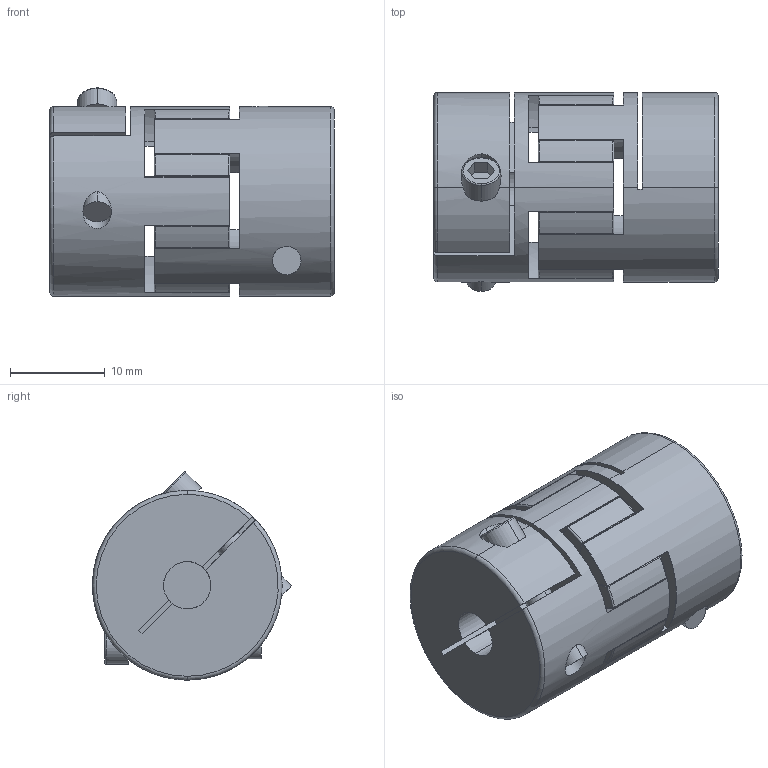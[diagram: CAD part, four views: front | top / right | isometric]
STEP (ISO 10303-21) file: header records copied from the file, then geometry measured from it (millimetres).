
FILE_DESCRIPTION (( 'STEP AP203' ), '1' );
FILE_NAME ('JM20CRD-5-5.STEP', '2021-01-28T00:54:04', ( '微软用户' ), ( '微软中国' ), 'SwSTEP 2.0', 'SolidWorks 2016', '' );
FILE_SCHEMA (( 'CONFIG_CONTROL_DESIGN' ));
Length unit declared in the file: millimetre
Products named in the file (1): JM20CRD-5-5
Bounding box: 30 x 21 x 21.96 mm (x, y, z)
Volume: 7795.2 mm3; surface area: 5054.9 mm2
Topology: 1 solids, 1 shells, 407 faces, 996 edges, 560 vertices
Faces by surface type: torus 151, cylinder 128, sphere 60, plane 52, bspline 16
Entity records: 13048 total; most frequent: CARTESIAN_POINT 3541, DIRECTION 2231, ORIENTED_EDGE 1896, AXIS2_PLACEMENT_3D 1002, EDGE_CURVE 948, CIRCLE 610, VERTEX_POINT 536, EDGE_LOOP 420
